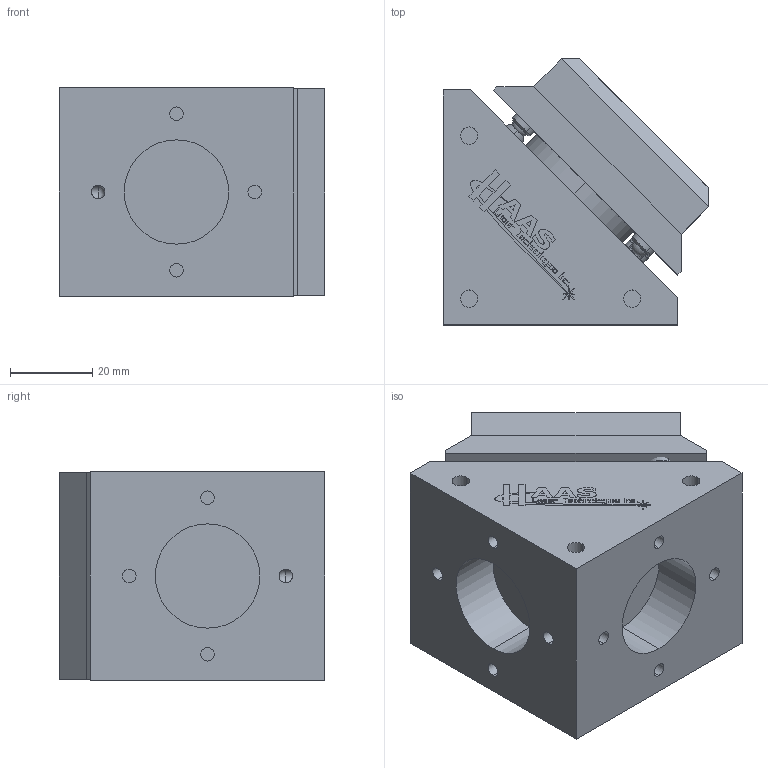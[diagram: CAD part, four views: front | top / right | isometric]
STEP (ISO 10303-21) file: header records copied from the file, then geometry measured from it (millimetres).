
FILE_DESCRIPTION (( 'STEP AP214' ), '1' );
FILE_NAME ('BBK-19-XX-XXX-NI.STEP', '2016-05-31T18:20:00', ( '' ), ( '' ), 'SwSTEP 2.0', 'SolidWorks 2016', '' );
FILE_SCHEMA (( 'AUTOMOTIVE_DESIGN' ));
Length unit declared in the file: inch
Products named in the file (1): BBK-19-XX-XXX-NI
Bounding box: 64.72 x 64.72 x 50.8 mm (x, y, z)
Volume: 141454.6 mm3; surface area: 39974.1 mm2
Topology: 15 solids, 15 shells, 326 faces, 1136 edges, 937 vertices
Faces by surface type: plane 168, cylinder 94, cone 33, torus 16, sphere 8, bspline 7
Entity records: 20456 total; most frequent: CARTESIAN_POINT 9158, ORIENTED_EDGE 2260, DIRECTION 2080, EDGE_CURVE 1130, VERTEX_POINT 935, VECTOR 698, LINE 698, AXIS2_PLACEMENT_3D 691
